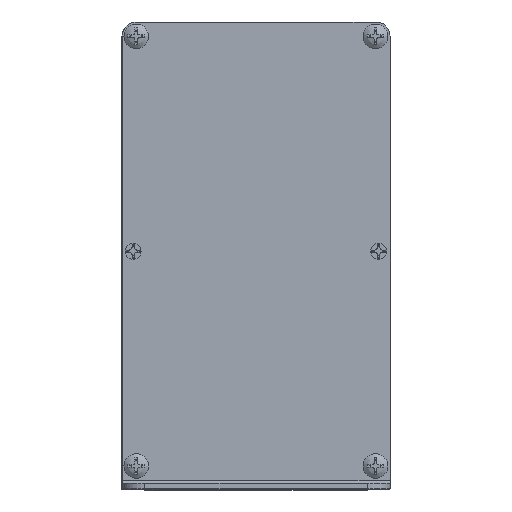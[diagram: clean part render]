
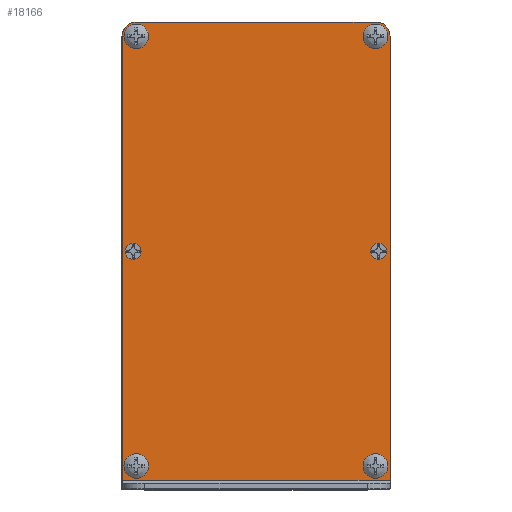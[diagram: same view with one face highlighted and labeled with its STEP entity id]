
A CAD part, top view. The second image highlights one B-rep face of the part: STEP entity #18166.
In plain terms, the highlighted planar face has unit normal (0, 0, 1).
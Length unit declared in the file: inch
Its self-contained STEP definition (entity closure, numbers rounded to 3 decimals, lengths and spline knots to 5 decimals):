
#463=FACE_BOUND('',#2622,.T.);
#464=FACE_BOUND('',#2623,.T.);
#465=FACE_BOUND('',#2624,.T.);
#466=FACE_BOUND('',#2625,.T.);
#467=FACE_BOUND('',#2626,.T.);
#468=FACE_BOUND('',#2627,.T.);
#864=PLANE('',#19844);
#1658=FACE_OUTER_BOUND('',#2621,.T.);
#2621=EDGE_LOOP('',(#15407,#15408,#15409,#15410,#15411,#15412));
#2622=EDGE_LOOP('',(#15413));
#2623=EDGE_LOOP('',(#15414));
#2624=EDGE_LOOP('',(#15415,#15416));
#2625=EDGE_LOOP('',(#15417,#15418));
#2626=EDGE_LOOP('',(#15419,#15420));
#2627=EDGE_LOOP('',(#15421,#15422));
#3071=CIRCLE('',#18672,0.08268);
#3107=CIRCLE('',#18733,0.08268);
#3373=CIRCLE('',#19222,0.17323);
#3374=CIRCLE('',#19223,0.17323);
#3392=CIRCLE('',#19263,0.17323);
#3393=CIRCLE('',#19264,0.17323);
#3408=CIRCLE('',#19301,0.17323);
#3409=CIRCLE('',#19302,0.17323);
#3424=CIRCLE('',#19339,0.17323);
#3425=CIRCLE('',#19340,0.17323);
#3733=CIRCLE('',#19841,0.19685);
#3735=CIRCLE('',#19845,0.19685);
#5109=LINE('',#31710,#6685);
#5116=LINE('',#31719,#6692);
#5117=LINE('',#31721,#6693);
#5118=LINE('',#31723,#6694);
#6685=VECTOR('',#24030,0.3937);
#6692=VECTOR('',#24039,0.3937);
#6693=VECTOR('',#24040,0.3937);
#6694=VECTOR('',#24041,0.3937);
#7400=VERTEX_POINT('',#26146);
#7456=VERTEX_POINT('',#26333);
#7949=VERTEX_POINT('',#28968);
#7950=VERTEX_POINT('',#28969);
#7995=VERTEX_POINT('',#29309);
#7996=VERTEX_POINT('',#29310);
#8039=VERTEX_POINT('',#29646);
#8040=VERTEX_POINT('',#29647);
#8083=VERTEX_POINT('',#29983);
#8084=VERTEX_POINT('',#29984);
#8699=VERTEX_POINT('',#31700);
#8700=VERTEX_POINT('',#31701);
#8703=VERTEX_POINT('',#31709);
#8704=VERTEX_POINT('',#31718);
#8705=VERTEX_POINT('',#31720);
#8706=VERTEX_POINT('',#31722);
#9280=EDGE_CURVE('',#7400,#7400,#3071,.T.);
#9365=EDGE_CURVE('',#7456,#7456,#3107,.T.);
#10072=EDGE_CURVE('',#7949,#7950,#3373,.T.);
#10073=EDGE_CURVE('',#7950,#7949,#3374,.T.);
#10140=EDGE_CURVE('',#7995,#7996,#3392,.T.);
#10141=EDGE_CURVE('',#7996,#7995,#3393,.T.);
#10206=EDGE_CURVE('',#8039,#8040,#3408,.T.);
#10207=EDGE_CURVE('',#8040,#8039,#3409,.T.);
#10272=EDGE_CURVE('',#8083,#8084,#3424,.T.);
#10273=EDGE_CURVE('',#8084,#8083,#3425,.T.);
#11060=EDGE_CURVE('',#8699,#8700,#3733,.T.);
#11064=EDGE_CURVE('',#8700,#8703,#5109,.T.);
#11071=EDGE_CURVE('',#8699,#8704,#5116,.T.);
#11072=EDGE_CURVE('',#8704,#8705,#5117,.T.);
#11073=EDGE_CURVE('',#8706,#8705,#5118,.T.);
#11074=EDGE_CURVE('',#8703,#8706,#3735,.T.);
#15407=ORIENTED_EDGE('',*,*,#11060,.F.);
#15408=ORIENTED_EDGE('',*,*,#11071,.T.);
#15409=ORIENTED_EDGE('',*,*,#11072,.T.);
#15410=ORIENTED_EDGE('',*,*,#11073,.F.);
#15411=ORIENTED_EDGE('',*,*,#11074,.F.);
#15412=ORIENTED_EDGE('',*,*,#11064,.F.);
#15413=ORIENTED_EDGE('',*,*,#9280,.T.);
#15414=ORIENTED_EDGE('',*,*,#9365,.T.);
#15415=ORIENTED_EDGE('',*,*,#10072,.T.);
#15416=ORIENTED_EDGE('',*,*,#10073,.T.);
#15417=ORIENTED_EDGE('',*,*,#10140,.T.);
#15418=ORIENTED_EDGE('',*,*,#10141,.T.);
#15419=ORIENTED_EDGE('',*,*,#10206,.T.);
#15420=ORIENTED_EDGE('',*,*,#10207,.T.);
#15421=ORIENTED_EDGE('',*,*,#10272,.T.);
#15422=ORIENTED_EDGE('',*,*,#10273,.T.);
#18166=ADVANCED_FACE('',(#1658,#463,#464,#465,#466,#467,#468),#864,.T.);
#18672=AXIS2_PLACEMENT_3D('',#26148,#20774,#20775);
#18733=AXIS2_PLACEMENT_3D('',#26335,#20936,#20937);
#19222=AXIS2_PLACEMENT_3D('',#28970,#22234,#22235);
#19223=AXIS2_PLACEMENT_3D('',#28971,#22236,#22237);
#19263=AXIS2_PLACEMENT_3D('',#29311,#22347,#22348);
#19264=AXIS2_PLACEMENT_3D('',#29312,#22349,#22350);
#19301=AXIS2_PLACEMENT_3D('',#29648,#22455,#22456);
#19302=AXIS2_PLACEMENT_3D('',#29649,#22457,#22458);
#19339=AXIS2_PLACEMENT_3D('',#29985,#22563,#22564);
#19340=AXIS2_PLACEMENT_3D('',#29986,#22565,#22566);
#19841=AXIS2_PLACEMENT_3D('',#31702,#24022,#24023);
#19844=AXIS2_PLACEMENT_3D('',#31717,#24037,#24038);
#19845=AXIS2_PLACEMENT_3D('',#31724,#24042,#24043);
#20774=DIRECTION('center_axis',(0.,0.,-1.));
#20775=DIRECTION('ref_axis',(1.,0.,0.));
#20936=DIRECTION('center_axis',(0.,0.,-1.));
#20937=DIRECTION('ref_axis',(1.,0.,0.));
#22234=DIRECTION('center_axis',(0.,0.,-1.));
#22235=DIRECTION('ref_axis',(1.,0.,0.));
#22236=DIRECTION('center_axis',(0.,0.,-1.));
#22237=DIRECTION('ref_axis',(1.,0.,0.));
#22347=DIRECTION('center_axis',(0.,0.,-1.));
#22348=DIRECTION('ref_axis',(1.,0.,0.));
#22349=DIRECTION('center_axis',(0.,0.,-1.));
#22350=DIRECTION('ref_axis',(1.,0.,0.));
#22455=DIRECTION('center_axis',(0.,0.,-1.));
#22456=DIRECTION('ref_axis',(1.,0.,0.));
#22457=DIRECTION('center_axis',(0.,0.,-1.));
#22458=DIRECTION('ref_axis',(1.,0.,0.));
#22563=DIRECTION('center_axis',(0.,0.,-1.));
#22564=DIRECTION('ref_axis',(1.,0.,0.));
#22565=DIRECTION('center_axis',(0.,0.,-1.));
#22566=DIRECTION('ref_axis',(1.,0.,0.));
#24022=DIRECTION('center_axis',(0.,0.,-1.));
#24023=DIRECTION('ref_axis',(-0.707,0.707,0.));
#24030=DIRECTION('',(1.,0.,0.));
#24037=DIRECTION('center_axis',(0.,0.,1.));
#24038=DIRECTION('ref_axis',(0.,-1.,0.));
#24039=DIRECTION('',(0.,-1.,0.));
#24040=DIRECTION('',(1.,0.,0.));
#24041=DIRECTION('',(0.,-1.,0.));
#24042=DIRECTION('center_axis',(0.,0.,-1.));
#24043=DIRECTION('ref_axis',(0.707,0.707,0.));
#26146=CARTESIAN_POINT('',(1.14461,3.30272,9.52756));
#26148=CARTESIAN_POINT('Origin',(1.22729,3.30272,9.52756));
#26333=CARTESIAN_POINT('',(4.58947,3.30272,9.52756));
#26335=CARTESIAN_POINT('Origin',(4.67214,3.30272,9.52756));
#28968=CARTESIAN_POINT('',(1.44444,0.28761,9.52756));
#28969=CARTESIAN_POINT('',(1.09799,0.28761,9.52756));
#28970=CARTESIAN_POINT('Origin',(1.27122,0.28761,9.52756));
#28971=CARTESIAN_POINT('Origin',(1.27122,0.28761,9.52756));
#29309=CARTESIAN_POINT('',(4.80144,0.28761,9.52756));
#29310=CARTESIAN_POINT('',(4.45499,0.28761,9.52756));
#29311=CARTESIAN_POINT('Origin',(4.62821,0.28761,9.52756));
#29312=CARTESIAN_POINT('Origin',(4.62821,0.28761,9.52756));
#29646=CARTESIAN_POINT('',(4.80144,6.31783,9.52756));
#29647=CARTESIAN_POINT('',(4.45499,6.31783,9.52756));
#29648=CARTESIAN_POINT('Origin',(4.62821,6.31783,9.52756));
#29649=CARTESIAN_POINT('Origin',(4.62821,6.31783,9.52756));
#29983=CARTESIAN_POINT('',(1.44444,6.31783,9.52756));
#29984=CARTESIAN_POINT('',(1.09799,6.31783,9.52756));
#29985=CARTESIAN_POINT('Origin',(1.27122,6.31783,9.52756));
#29986=CARTESIAN_POINT('Origin',(1.27122,6.31783,9.52756));
#31700=CARTESIAN_POINT('',(1.07436,6.3224,9.52756));
#31701=CARTESIAN_POINT('',(1.27122,6.51925,9.52756));
#31702=CARTESIAN_POINT('Origin',(1.27122,6.3224,9.52756));
#31709=CARTESIAN_POINT('',(4.63736,6.51925,9.52756));
#31710=CARTESIAN_POINT('',(1.07436,6.51925,9.52756));
#31717=CARTESIAN_POINT('Origin',(1.07436,6.51925,9.52756));
#31718=CARTESIAN_POINT('',(1.07436,0.08618,9.52756));
#31719=CARTESIAN_POINT('',(1.07436,6.51925,9.52756));
#31720=CARTESIAN_POINT('',(4.83421,0.08618,9.52756));
#31721=CARTESIAN_POINT('',(1.07436,0.08618,9.52756));
#31722=CARTESIAN_POINT('',(4.83421,6.3224,9.52756));
#31723=CARTESIAN_POINT('',(4.83421,6.51925,9.52756));
#31724=CARTESIAN_POINT('Origin',(4.63736,6.3224,9.52756));
